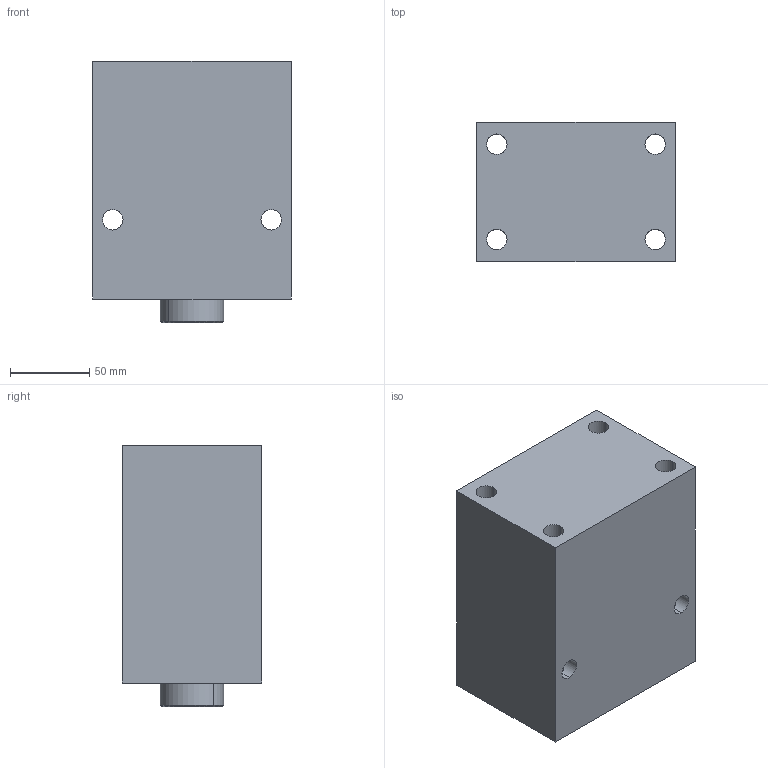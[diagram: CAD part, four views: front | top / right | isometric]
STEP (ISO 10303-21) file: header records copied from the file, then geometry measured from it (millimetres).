
FILE_DESCRIPTION (( 'STEP AP203' ), '1' );
FILE_NAME ('Block cylinder B01C-675F.STEP', '2022-07-09T18:34:51', ( '' ), ( '' ), 'SwSTEP 2.0', 'SolidWorks 2017', '' );
FILE_SCHEMA (( 'CONFIG_CONTROL_DESIGN' ));
Length unit declared in the file: millimetre
Products named in the file (3): Body_ 675F_50ST; Piston _ 675F; Block cylinder B01C-675F
Assembly tree (2 placements, depth 2):
  Block cylinder B01C-675F
    Body_ 675F_50ST
    Piston _ 675F
Bounding box: 125 x 88 x 165 mm (x, y, z)
Volume: 1666165.5 mm3; surface area: 140733.7 mm2
Topology: 2 solids, 2 shells, 337 faces, 919 edges, 599 vertices
Faces by surface type: bspline 146, plane 139, cylinder 44, cone 8
Entity records: 16838 total; most frequent: CARTESIAN_POINT 9072, ORIENTED_EDGE 1826, DIRECTION 1039, EDGE_CURVE 913, VERTEX_POINT 599, VECTOR 531, LINE 531, EDGE_LOOP 376
